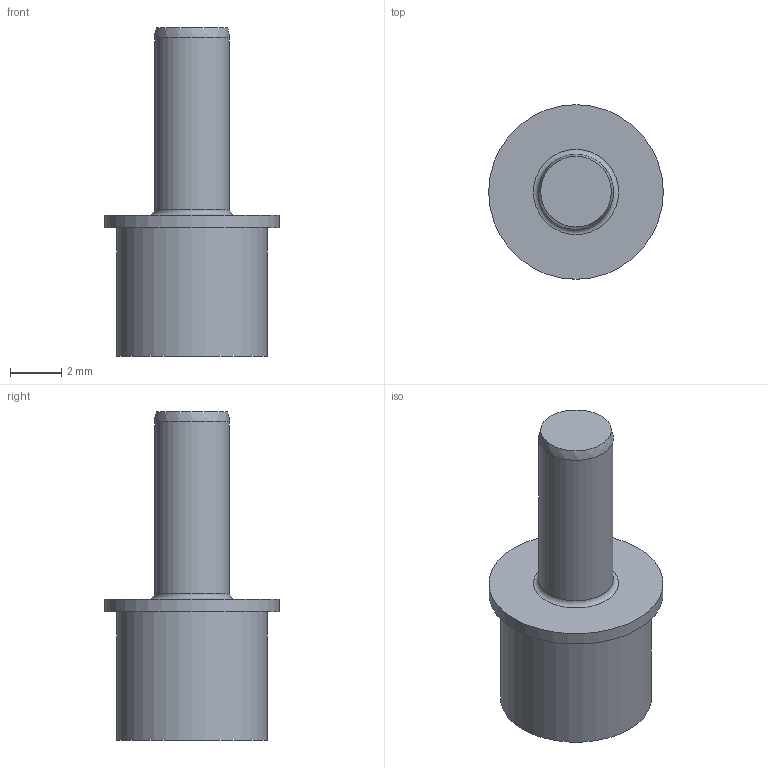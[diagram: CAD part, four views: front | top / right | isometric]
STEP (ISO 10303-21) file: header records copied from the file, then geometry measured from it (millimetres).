
FILE_DESCRIPTION(/* description */ (''),/* implementation_level */ '2;1');
FILE_NAME(/* name */ 'Cabineo X Bodentrger 3.stp',/* time_stamp */ '2023-11-20T13:53:05+01:00',/* author */ ('simond'),/* organization */ (''),/* preprocessor_version */ 'ST-DEVELOPER v19.2',/* originating_system */ 'Autodesk Inventor 2023',/* authorisation */ '');
FILE_SCHEMA (('AUTOMOTIVE_DESIGN { 1 0 10303 214 3 1 1 }'));
Length unit declared in the file: millimetre
Products named in the file (1): Cabineo X Bodenträger Ø3
Bounding box: 6.8 x 6.8 x 12.8 mm (x, y, z)
Volume: 202.8 mm3; surface area: 241.2 mm2
Topology: 1 solids, 1 shells, 9 faces, 15 edges, 10 vertices
Faces by surface type: plane 4, cylinder 3, torus 1, bspline 1
Full cylindrical faces by diameter (mm): 2.92 x1, 5.88 x1, 6.8 x1
Entity records: 286 total; most frequent: CARTESIAN_POINT 61, DIRECTION 45, ORIENTED_EDGE 30, AXIS2_PLACEMENT_3D 21, EDGE_CURVE 15, CIRCLE 12, EDGE_LOOP 11, VERTEX_POINT 10
